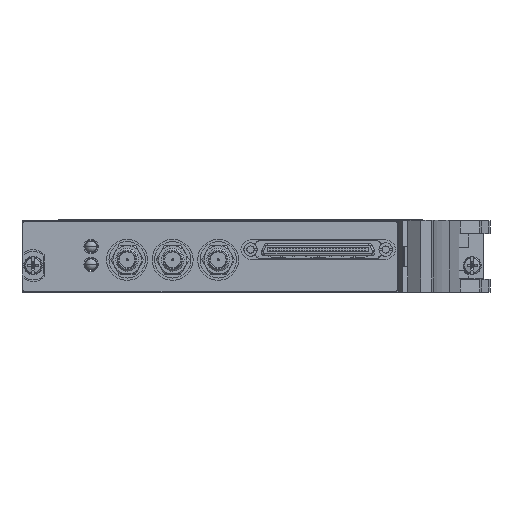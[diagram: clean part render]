
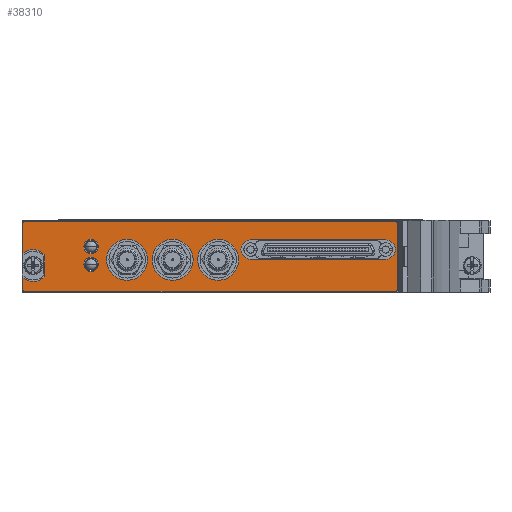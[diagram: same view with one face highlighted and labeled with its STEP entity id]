
A CAD part, top view. The second image highlights one B-rep face of the part: STEP entity #38310.
In plain terms, the highlighted planar face has unit normal (0, 0, 1).
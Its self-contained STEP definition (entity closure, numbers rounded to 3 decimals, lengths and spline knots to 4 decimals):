
#2008=CARTESIAN_POINT('',(0.03,-0.03,0.115));
#2009=DIRECTION('',(0.,0.,1.));
#2010=DIRECTION('',(0.,1.,0.));
#2011=AXIS2_PLACEMENT_3D('',#2008,#2009,#2010);
#2013=DIRECTION('',(-1.,0.,0.));
#2014=VECTOR('',#2013,4.07);
#2015=CARTESIAN_POINT('',(4.1,-0.01,0.115));
#2016=LINE('',#2015,#2014);
#2017=CARTESIAN_POINT('',(4.1,-0.03,0.115));
#2018=DIRECTION('',(0.,0.,1.));
#2019=DIRECTION('',(1.,0.,0.));
#2020=AXIS2_PLACEMENT_3D('',#2017,#2018,#2019);
#2022=DIRECTION('',(0.,1.,0.));
#2023=VECTOR('',#2022,0.728);
#2024=CARTESIAN_POINT('',(4.12,-0.758,0.115));
#2025=LINE('',#2024,#2023);
#2026=CARTESIAN_POINT('',(4.1,-0.758,0.115));
#2027=DIRECTION('',(0.,0.,1.));
#2028=DIRECTION('',(0.,-1.,0.));
#2029=AXIS2_PLACEMENT_3D('',#2026,#2027,#2028);
#2031=DIRECTION('',(1.,0.,0.));
#2032=VECTOR('',#2031,4.07);
#2033=CARTESIAN_POINT('',(0.03,-0.778,0.115));
#2034=LINE('',#2033,#2032);
#2035=CARTESIAN_POINT('',(0.03,-0.758,0.115));
#2036=DIRECTION('',(0.,0.,1.));
#2037=DIRECTION('',(-1.,0.,0.));
#2038=AXIS2_PLACEMENT_3D('',#2035,#2036,#2037);
#2040=DIRECTION('',(0.,-1.,0.));
#2041=VECTOR('',#2040,0.1295);
#2042=CARTESIAN_POINT('',(0.01,-0.6285,0.115));
#2043=LINE('',#2042,#2041);
#2044=CARTESIAN_POINT('',(0.122,-0.494,0.115));
#2045=DIRECTION('',(0.,0.,-1.));
#2046=DIRECTION('',(0.737,-0.676,0.));
#2047=AXIS2_PLACEMENT_3D('',#2044,#2045,#2046);
#2049=DIRECTION('',(0.,-1.,0.));
#2050=VECTOR('',#2049,0.2365);
#2051=CARTESIAN_POINT('',(0.251,-0.3757,0.115));
#2052=LINE('',#2051,#2050);
#2053=CARTESIAN_POINT('',(0.122,-0.494,0.115));
#2054=DIRECTION('',(0.,0.,-1.));
#2055=DIRECTION('',(-0.64,0.768,0.));
#2056=AXIS2_PLACEMENT_3D('',#2053,#2054,#2055);
#2058=DIRECTION('',(0.,-1.,0.));
#2059=VECTOR('',#2058,0.3295);
#2060=CARTESIAN_POINT('',(0.01,-0.03,0.115));
#2061=LINE('',#2060,#2059);
#2062=CARTESIAN_POINT('',(1.154,-0.43,0.115));
#2063=DIRECTION('',(0.,0.,1.));
#2064=DIRECTION('',(0.,1.,0.));
#2065=AXIS2_PLACEMENT_3D('',#2062,#2063,#2064);
#2067=CARTESIAN_POINT('',(1.154,-0.43,0.115));
#2068=DIRECTION('',(0.,0.,1.));
#2069=DIRECTION('',(0.,-1.,0.));
#2070=AXIS2_PLACEMENT_3D('',#2067,#2068,#2069);
#2072=CARTESIAN_POINT('',(1.654,-0.43,0.115));
#2073=DIRECTION('',(0.,0.,1.));
#2074=DIRECTION('',(0.,1.,0.));
#2075=AXIS2_PLACEMENT_3D('',#2072,#2073,#2074);
#2077=CARTESIAN_POINT('',(1.654,-0.43,0.115));
#2078=DIRECTION('',(0.,0.,1.));
#2079=DIRECTION('',(0.,-1.,0.));
#2080=AXIS2_PLACEMENT_3D('',#2077,#2078,#2079);
#2082=CARTESIAN_POINT('',(2.154,-0.43,0.115));
#2083=DIRECTION('',(0.,0.,1.));
#2084=DIRECTION('',(0.,1.,0.));
#2085=AXIS2_PLACEMENT_3D('',#2082,#2083,#2084);
#2087=CARTESIAN_POINT('',(2.154,-0.43,0.115));
#2088=DIRECTION('',(0.,0.,1.));
#2089=DIRECTION('',(0.,-1.,0.));
#2090=AXIS2_PLACEMENT_3D('',#2087,#2088,#2089);
#2092=CARTESIAN_POINT('',(3.993,-0.318,0.115));
#2093=DIRECTION('',(0.,0.,1.));
#2094=DIRECTION('',(0.,-1.,0.));
#2095=AXIS2_PLACEMENT_3D('',#2092,#2093,#2094);
#2097=DIRECTION('',(-1.,0.,0.));
#2098=VECTOR('',#2097,1.484);
#2099=CARTESIAN_POINT('',(3.993,-0.212,0.115));
#2100=LINE('',#2099,#2098);
#2101=CARTESIAN_POINT('',(2.509,-0.318,0.115));
#2102=DIRECTION('',(0.,0.,1.));
#2103=DIRECTION('',(0.,1.,0.));
#2104=AXIS2_PLACEMENT_3D('',#2101,#2102,#2103);
#2106=DIRECTION('',(1.,0.,0.));
#2107=VECTOR('',#2106,1.484);
#2108=CARTESIAN_POINT('',(2.509,-0.424,0.115));
#2109=LINE('',#2108,#2107);
#2110=CARTESIAN_POINT('',(0.759,-0.48,0.115));
#2111=DIRECTION('',(0.,0.,1.));
#2112=DIRECTION('',(-1.,0.,0.));
#2113=AXIS2_PLACEMENT_3D('',#2110,#2111,#2112);
#2115=CARTESIAN_POINT('',(0.759,-0.48,0.115));
#2116=DIRECTION('',(0.,0.,1.));
#2117=DIRECTION('',(1.,0.,0.));
#2118=AXIS2_PLACEMENT_3D('',#2115,#2116,#2117);
#2120=CARTESIAN_POINT('',(0.759,-0.285,0.115));
#2121=DIRECTION('',(0.,0.,1.));
#2122=DIRECTION('',(-1.,0.,0.));
#2123=AXIS2_PLACEMENT_3D('',#2120,#2121,#2122);
#2125=CARTESIAN_POINT('',(0.759,-0.285,0.115));
#2126=DIRECTION('',(0.,0.,1.));
#2127=DIRECTION('',(1.,0.,0.));
#2128=AXIS2_PLACEMENT_3D('',#2125,#2126,#2127);
#28509=CARTESIAN_POINT('',(0.03,-0.01,0.115));
#28510=CARTESIAN_POINT('',(0.01,-0.03,0.115));
#28511=VERTEX_POINT('',#28509);
#28512=VERTEX_POINT('',#28510);
#28513=CARTESIAN_POINT('',(0.01,-0.3595,0.115));
#28514=VERTEX_POINT('',#28513);
#28515=CARTESIAN_POINT('',(0.251,-0.3757,0.115));
#28516=VERTEX_POINT('',#28515);
#28517=CARTESIAN_POINT('',(0.251,-0.6123,0.115));
#28518=VERTEX_POINT('',#28517);
#28519=CARTESIAN_POINT('',(0.01,-0.6285,0.115));
#28520=VERTEX_POINT('',#28519);
#28521=CARTESIAN_POINT('',(0.01,-0.758,0.115));
#28522=VERTEX_POINT('',#28521);
#28523=CARTESIAN_POINT('',(0.03,-0.778,0.115));
#28524=VERTEX_POINT('',#28523);
#28525=CARTESIAN_POINT('',(4.1,-0.778,0.115));
#28526=VERTEX_POINT('',#28525);
#28527=CARTESIAN_POINT('',(4.12,-0.758,0.115));
#28528=VERTEX_POINT('',#28527);
#28529=CARTESIAN_POINT('',(4.12,-0.03,0.115));
#28530=VERTEX_POINT('',#28529);
#28531=CARTESIAN_POINT('',(4.1,-0.01,0.115));
#28532=VERTEX_POINT('',#28531);
#28533=CARTESIAN_POINT('',(3.993,-0.424,0.115));
#28534=CARTESIAN_POINT('',(3.993,-0.212,0.115));
#28535=VERTEX_POINT('',#28533);
#28536=VERTEX_POINT('',#28534);
#28537=CARTESIAN_POINT('',(2.509,-0.212,0.115));
#28538=VERTEX_POINT('',#28537);
#28539=CARTESIAN_POINT('',(2.509,-0.424,0.115));
#28540=VERTEX_POINT('',#28539);
#28541=CARTESIAN_POINT('',(0.6805,-0.48,0.115));
#28542=CARTESIAN_POINT('',(0.8375,-0.48,0.115));
#28543=VERTEX_POINT('',#28541);
#28544=VERTEX_POINT('',#28542);
#28545=CARTESIAN_POINT('',(0.6805,-0.285,0.115));
#28546=CARTESIAN_POINT('',(0.8375,-0.285,0.115));
#28547=VERTEX_POINT('',#28545);
#28548=VERTEX_POINT('',#28546);
#28549=CARTESIAN_POINT('',(1.154,-0.205,0.115));
#28550=CARTESIAN_POINT('',(1.154,-0.655,0.115));
#28551=VERTEX_POINT('',#28549);
#28552=VERTEX_POINT('',#28550);
#28553=CARTESIAN_POINT('',(1.654,-0.205,0.115));
#28554=CARTESIAN_POINT('',(1.654,-0.655,0.115));
#28555=VERTEX_POINT('',#28553);
#28556=VERTEX_POINT('',#28554);
#28557=CARTESIAN_POINT('',(2.154,-0.205,0.115));
#28558=CARTESIAN_POINT('',(2.154,-0.655,0.115));
#28559=VERTEX_POINT('',#28557);
#28560=VERTEX_POINT('',#28558);
#38242=CARTESIAN_POINT('',(0.122,-0.494,0.115));
#38243=DIRECTION('',(0.,0.,1.));
#38244=DIRECTION('',(0.,1.,0.));
#38245=AXIS2_PLACEMENT_3D('',#38242,#38243,#38244);
#38246=PLANE('',#38245);
#38247=ORIENTED_EDGE('',*,*,#38222,.F.);
#38248=ORIENTED_EDGE('',*,*,#38236,.F.);
#38249=ORIENTED_EDGE('',*,*,#38154,.F.);
#38251=ORIENTED_EDGE('',*,*,#38250,.F.);
#38253=ORIENTED_EDGE('',*,*,#38252,.F.);
#38255=ORIENTED_EDGE('',*,*,#38254,.F.);
#38257=ORIENTED_EDGE('',*,*,#38256,.F.);
#38259=ORIENTED_EDGE('',*,*,#38258,.F.);
#38261=ORIENTED_EDGE('',*,*,#38260,.F.);
#38263=ORIENTED_EDGE('',*,*,#38262,.F.);
#38265=ORIENTED_EDGE('',*,*,#38264,.F.);
#38267=ORIENTED_EDGE('',*,*,#38266,.F.);
#38268=EDGE_LOOP('',(#38247,#38248,#38249,#38251,#38253,#38255,#38257,#38259,
#38261,#38263,#38265,#38267));
#38269=FACE_OUTER_BOUND('',#38268,.F.);
#38271=ORIENTED_EDGE('',*,*,#38270,.T.);
#38273=ORIENTED_EDGE('',*,*,#38272,.T.);
#38274=EDGE_LOOP('',(#38271,#38273));
#38275=FACE_BOUND('',#38274,.F.);
#38277=ORIENTED_EDGE('',*,*,#38276,.T.);
#38279=ORIENTED_EDGE('',*,*,#38278,.T.);
#38280=EDGE_LOOP('',(#38277,#38279));
#38281=FACE_BOUND('',#38280,.F.);
#38283=ORIENTED_EDGE('',*,*,#38282,.T.);
#38285=ORIENTED_EDGE('',*,*,#38284,.T.);
#38286=EDGE_LOOP('',(#38283,#38285));
#38287=FACE_BOUND('',#38286,.F.);
#38289=ORIENTED_EDGE('',*,*,#38288,.T.);
#38291=ORIENTED_EDGE('',*,*,#38290,.T.);
#38293=ORIENTED_EDGE('',*,*,#38292,.T.);
#38295=ORIENTED_EDGE('',*,*,#38294,.T.);
#38296=EDGE_LOOP('',(#38289,#38291,#38293,#38295));
#38297=FACE_BOUND('',#38296,.F.);
#38299=ORIENTED_EDGE('',*,*,#38298,.T.);
#38301=ORIENTED_EDGE('',*,*,#38300,.T.);
#38302=EDGE_LOOP('',(#38299,#38301));
#38303=FACE_BOUND('',#38302,.F.);
#38305=ORIENTED_EDGE('',*,*,#38304,.T.);
#38307=ORIENTED_EDGE('',*,*,#38306,.T.);
#38308=EDGE_LOOP('',(#38305,#38307));
#38309=FACE_BOUND('',#38308,.F.);
#38310=ADVANCED_FACE('',(#38269,#38275,#38281,#38287,#38297,#38303,#38309),
#38246,.T.);
#2012=CIRCLE('',#2011,0.02);
#2021=CIRCLE('',#2020,0.02);
#2030=CIRCLE('',#2029,0.02);
#2039=CIRCLE('',#2038,0.02);
#2048=CIRCLE('',#2047,0.175);
#2057=CIRCLE('',#2056,0.175);
#2066=CIRCLE('',#2065,0.225);
#2071=CIRCLE('',#2070,0.225);
#2076=CIRCLE('',#2075,0.225);
#2081=CIRCLE('',#2080,0.225);
#2086=CIRCLE('',#2085,0.225);
#2091=CIRCLE('',#2090,0.225);
#2096=CIRCLE('',#2095,0.106);
#2105=CIRCLE('',#2104,0.106);
#2114=CIRCLE('',#2113,0.0785);
#2119=CIRCLE('',#2118,0.0785);
#2124=CIRCLE('',#2123,0.0785);
#2129=CIRCLE('',#2128,0.0785);
#38154=EDGE_CURVE('',#28530,#28532,#2021,.T.);
#38222=EDGE_CURVE('',#28511,#28512,#2012,.T.);
#38236=EDGE_CURVE('',#28532,#28511,#2016,.T.);
#38250=EDGE_CURVE('',#28528,#28530,#2025,.T.);
#38252=EDGE_CURVE('',#28526,#28528,#2030,.T.);
#38254=EDGE_CURVE('',#28524,#28526,#2034,.T.);
#38256=EDGE_CURVE('',#28522,#28524,#2039,.T.);
#38258=EDGE_CURVE('',#28520,#28522,#2043,.T.);
#38260=EDGE_CURVE('',#28518,#28520,#2048,.T.);
#38262=EDGE_CURVE('',#28516,#28518,#2052,.T.);
#38264=EDGE_CURVE('',#28514,#28516,#2057,.T.);
#38266=EDGE_CURVE('',#28512,#28514,#2061,.T.);
#38270=EDGE_CURVE('',#28551,#28552,#2066,.T.);
#38272=EDGE_CURVE('',#28552,#28551,#2071,.T.);
#38276=EDGE_CURVE('',#28555,#28556,#2076,.T.);
#38278=EDGE_CURVE('',#28556,#28555,#2081,.T.);
#38282=EDGE_CURVE('',#28559,#28560,#2086,.T.);
#38284=EDGE_CURVE('',#28560,#28559,#2091,.T.);
#38288=EDGE_CURVE('',#28535,#28536,#2096,.T.);
#38290=EDGE_CURVE('',#28536,#28538,#2100,.T.);
#38292=EDGE_CURVE('',#28538,#28540,#2105,.T.);
#38294=EDGE_CURVE('',#28540,#28535,#2109,.T.);
#38298=EDGE_CURVE('',#28543,#28544,#2114,.T.);
#38300=EDGE_CURVE('',#28544,#28543,#2119,.T.);
#38304=EDGE_CURVE('',#28547,#28548,#2124,.T.);
#38306=EDGE_CURVE('',#28548,#28547,#2129,.T.);
